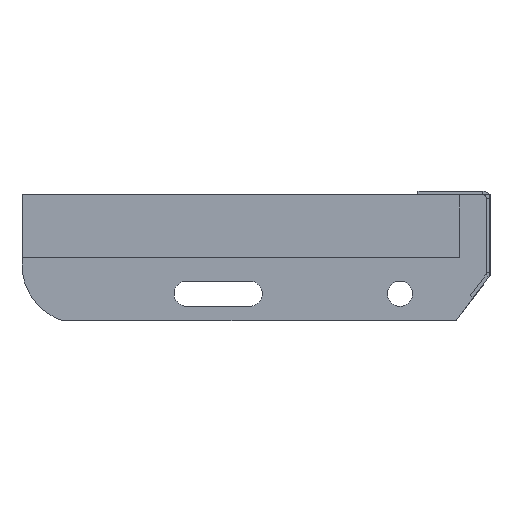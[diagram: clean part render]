
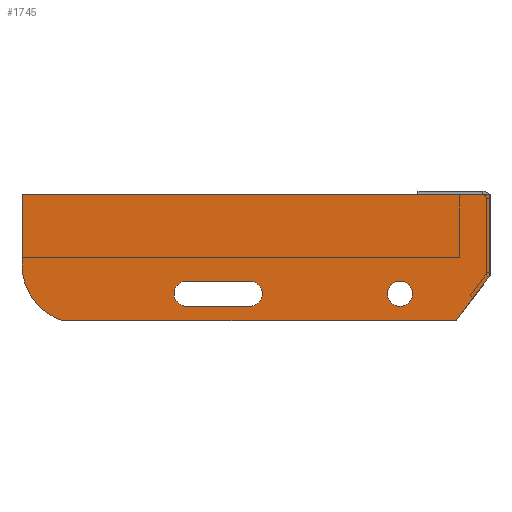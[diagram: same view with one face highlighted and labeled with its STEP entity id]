
A CAD part, left-side view. The second image highlights one B-rep face of the part: STEP entity #1745.
In plain terms, the highlighted planar face has unit normal (-1, 0, 0) as drawn and (0, 0, 1) by its records, which use the part's own axes.
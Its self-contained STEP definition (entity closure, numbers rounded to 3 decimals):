
#13 = LINE ( 'NONE', #763, #1225 ) ;
#36 = VERTEX_POINT ( 'NONE', #1615 ) ;
#58 = DIRECTION ( 'NONE',  ( -1., 0., 0. ) ) ;
#85 = LINE ( 'NONE', #1983, #703 ) ;
#95 = DIRECTION ( 'NONE',  ( 0., -1., 0. ) ) ;
#176 = AXIS2_PLACEMENT_3D ( 'NONE', #1305, #948, #481 ) ;
#208 = AXIS2_PLACEMENT_3D ( 'NONE', #702, #253, #1332 ) ;
#211 = VERTEX_POINT ( 'NONE', #569 ) ;
#227 = CARTESIAN_POINT ( 'NONE',  ( -50., -55., 3. ) ) ;
#234 = DIRECTION ( 'NONE',  ( -1., 0., 0. ) ) ;
#242 = ORIENTED_EDGE ( 'NONE', *, *, #1828, .T. ) ;
#253 = DIRECTION ( 'NONE',  ( 0., 0., 1. ) ) ;
#262 = EDGE_CURVE ( 'NONE', #1013, #555, #1037, .T. ) ;
#281 = ORIENTED_EDGE ( 'NONE', *, *, #1546, .T. ) ;
#294 = CARTESIAN_POINT ( 'NONE',  ( -18.839, -70., 3. ) ) ;
#314 = CARTESIAN_POINT ( 'NONE',  ( -168.5, -62., 3. ) ) ;
#340 = ORIENTED_EDGE ( 'NONE', *, *, #657, .F. ) ;
#361 = DIRECTION ( 'NONE',  ( 1., 0., 0. ) ) ;
#371 = DIRECTION ( 'NONE',  ( 0., 0., 1. ) ) ;
#386 = DIRECTION ( 'NONE',  ( 0.602, 0.799, 0. ) ) ;
#388 = VERTEX_POINT ( 'NONE', #689 ) ;
#392 = DIRECTION ( 'NONE',  ( 0., 0., 1. ) ) ;
#406 = CARTESIAN_POINT ( 'NONE',  ( -133.5, -62., 3. ) ) ;
#412 = AXIS2_PLACEMENT_3D ( 'NONE', #1905, #537, #361 ) ;
#414 = DIRECTION ( 'NONE',  ( 1., 0., 0. ) ) ;
#465 = VERTEX_POINT ( 'NONE', #512 ) ;
#481 = DIRECTION ( 'NONE',  ( 1., 0., 0. ) ) ;
#484 = DIRECTION ( 'NONE',  ( 1., 0., 0. ) ) ;
#494 = VERTEX_POINT ( 'NONE', #406 ) ;
#503 = CIRCLE ( 'NONE', #1584, 7. ) ;
#507 = VECTOR ( 'NONE', #1658, 1000. ) ;
#512 = CARTESIAN_POINT ( 'NONE',  ( -57., -55., 3. ) ) ;
#517 = ORIENTED_EDGE ( 'NONE', *, *, #864, .F. ) ;
#523 = CARTESIAN_POINT ( 'NONE',  ( -260., 0., 3. ) ) ;
#537 = DIRECTION ( 'NONE',  ( 0., 0., 1. ) ) ;
#555 = VERTEX_POINT ( 'NONE', #1902 ) ;
#565 = ORIENTED_EDGE ( 'NONE', *, *, #1841, .T. ) ;
#569 = CARTESIAN_POINT ( 'NONE',  ( -237.26, -70., 3. ) ) ;
#639 = VERTEX_POINT ( 'NONE', #523 ) ;
#653 = CARTESIAN_POINT ( 'NONE',  ( -260., -39., 3. ) ) ;
#657 = EDGE_CURVE ( 'NONE', #1991, #465, #976, .T. ) ;
#665 = VECTOR ( 'NONE', #234, 1000. ) ;
#668 = DIRECTION ( 'NONE',  ( 1., 0., 0. ) ) ;
#675 = ORIENTED_EDGE ( 'NONE', *, *, #782, .T. ) ;
#683 = VERTEX_POINT ( 'NONE', #653 ) ;
#685 = ORIENTED_EDGE ( 'NONE', *, *, #1244, .F. ) ;
#689 = CARTESIAN_POINT ( 'NONE',  ( -168.5, -62., 3. ) ) ;
#692 = LINE ( 'NONE', #1631, #1622 ) ;
#702 = CARTESIAN_POINT ( 'NONE',  ( -133.5, -55., 3. ) ) ;
#703 = VECTOR ( 'NONE', #95, 1000. ) ;
#744 = CARTESIAN_POINT ( 'NONE',  ( -43., -55., 3. ) ) ;
#749 = EDGE_CURVE ( 'NONE', #36, #388, #1673, .T. ) ;
#762 = VERTEX_POINT ( 'NONE', #879 ) ;
#763 = CARTESIAN_POINT ( 'NONE',  ( -18.839, -70., 3. ) ) ;
#765 = VECTOR ( 'NONE', #1428, 1000. ) ;
#774 = EDGE_LOOP ( 'NONE', ( #1000, #1198, #1783, #685, #1598 ) ) ;
#782 = EDGE_CURVE ( 'NONE', #639, #683, #85, .T. ) ;
#784 = LINE ( 'NONE', #314, #765 ) ;
#813 = EDGE_LOOP ( 'NONE', ( #517, #340 ) ) ;
#831 = CIRCLE ( 'NONE', #208, 7. ) ;
#845 = DIRECTION ( 'NONE',  ( 0., 0., 1. ) ) ;
#864 = EDGE_CURVE ( 'NONE', #465, #1991, #1782, .T. ) ;
#867 = CARTESIAN_POINT ( 'NONE',  ( -168.5, -55., 3. ) ) ;
#873 = ORIENTED_EDGE ( 'NONE', *, *, #262, .T. ) ;
#879 = CARTESIAN_POINT ( 'NONE',  ( -168.5, -48., 3. ) ) ;
#927 = VERTEX_POINT ( 'NONE', #294 ) ;
#948 = DIRECTION ( 'NONE',  ( 0., 0., 1. ) ) ;
#976 = CIRCLE ( 'NONE', #176, 7. ) ;
#987 = FACE_OUTER_BOUND ( 'NONE', #1063, .T. ) ;
#1000 = ORIENTED_EDGE ( 'NONE', *, *, #1188, .F. ) ;
#1013 = VERTEX_POINT ( 'NONE', #1539 ) ;
#1025 = DIRECTION ( 'NONE',  ( 1., 0., 0. ) ) ;
#1037 = LINE ( 'NONE', #1639, #507 ) ;
#1044 = VERTEX_POINT ( 'NONE', #2001 ) ;
#1063 = EDGE_LOOP ( 'NONE', ( #873, #242, #675, #281, #1744, #565 ) ) ;
#1093 = CIRCLE ( 'NONE', #1197, 32.5 ) ;
#1113 = DIRECTION ( 'NONE',  ( 1., 0., 0. ) ) ;
#1121 = FACE_BOUND ( 'NONE', #774, .T. ) ;
#1188 = EDGE_CURVE ( 'NONE', #388, #494, #784, .T. ) ;
#1197 = AXIS2_PLACEMENT_3D ( 'NONE', #1380, #1404, #484 ) ;
#1198 = ORIENTED_EDGE ( 'NONE', *, *, #749, .F. ) ;
#1225 = VECTOR ( 'NONE', #1113, 1000. ) ;
#1244 = EDGE_CURVE ( 'NONE', #1044, #762, #1526, .T. ) ;
#1252 = VECTOR ( 'NONE', #58, 1000. ) ;
#1282 = FACE_BOUND ( 'NONE', #813, .T. ) ;
#1305 = CARTESIAN_POINT ( 'NONE',  ( -50., -55., 3. ) ) ;
#1312 = CARTESIAN_POINT ( 'NONE',  ( -168.5, -48., 3. ) ) ;
#1332 = DIRECTION ( 'NONE',  ( 1., 0., 0. ) ) ;
#1359 = AXIS2_PLACEMENT_3D ( 'NONE', #227, #392, #1025 ) ;
#1368 = AXIS2_PLACEMENT_3D ( 'NONE', #867, #845, #414 ) ;
#1380 = CARTESIAN_POINT ( 'NONE',  ( -227.5, -39., 3. ) ) ;
#1404 = DIRECTION ( 'NONE',  ( 0., 0., 1. ) ) ;
#1428 = DIRECTION ( 'NONE',  ( 1., 0., 0. ) ) ;
#1461 = LINE ( 'NONE', #1780, #1252 ) ;
#1526 = LINE ( 'NONE', #1312, #665 ) ;
#1539 = CARTESIAN_POINT ( 'NONE',  ( 0., -45., 3. ) ) ;
#1546 = EDGE_CURVE ( 'NONE', #683, #211, #1093, .T. ) ;
#1547 = EDGE_CURVE ( 'NONE', #211, #927, #13, .T. ) ;
#1584 = AXIS2_PLACEMENT_3D ( 'NONE', #1606, #371, #668 ) ;
#1598 = ORIENTED_EDGE ( 'NONE', *, *, #1955, .F. ) ;
#1606 = CARTESIAN_POINT ( 'NONE',  ( -168.5, -55., 3. ) ) ;
#1615 = CARTESIAN_POINT ( 'NONE',  ( -175.5, -55., 3. ) ) ;
#1622 = VECTOR ( 'NONE', #386, 1000. ) ;
#1631 = CARTESIAN_POINT ( 'NONE',  ( 0., -45., 3. ) ) ;
#1639 = CARTESIAN_POINT ( 'NONE',  ( 0., 0., 3. ) ) ;
#1658 = DIRECTION ( 'NONE',  ( 0., 1., 0. ) ) ;
#1673 = CIRCLE ( 'NONE', #1368, 7. ) ;
#1741 = PLANE ( 'NONE',  #412 ) ;
#1744 = ORIENTED_EDGE ( 'NONE', *, *, #1547, .T. ) ;
#1745 = ADVANCED_FACE ( 'NONE', ( #987, #1282, #1121 ), #1741, .T. ) ;
#1760 = EDGE_CURVE ( 'NONE', #762, #36, #503, .T. ) ;
#1780 = CARTESIAN_POINT ( 'NONE',  ( 0., 0., 3. ) ) ;
#1782 = CIRCLE ( 'NONE', #1359, 7. ) ;
#1783 = ORIENTED_EDGE ( 'NONE', *, *, #1760, .F. ) ;
#1828 = EDGE_CURVE ( 'NONE', #555, #639, #1461, .T. ) ;
#1841 = EDGE_CURVE ( 'NONE', #927, #1013, #692, .T. ) ;
#1902 = CARTESIAN_POINT ( 'NONE',  ( 0., 0., 3. ) ) ;
#1905 = CARTESIAN_POINT ( 'NONE',  ( -227.5, -39., 3. ) ) ;
#1955 = EDGE_CURVE ( 'NONE', #494, #1044, #831, .T. ) ;
#1983 = CARTESIAN_POINT ( 'NONE',  ( -260., 0., 3. ) ) ;
#1991 = VERTEX_POINT ( 'NONE', #744 ) ;
#2001 = CARTESIAN_POINT ( 'NONE',  ( -133.5, -48., 3. ) ) ;
